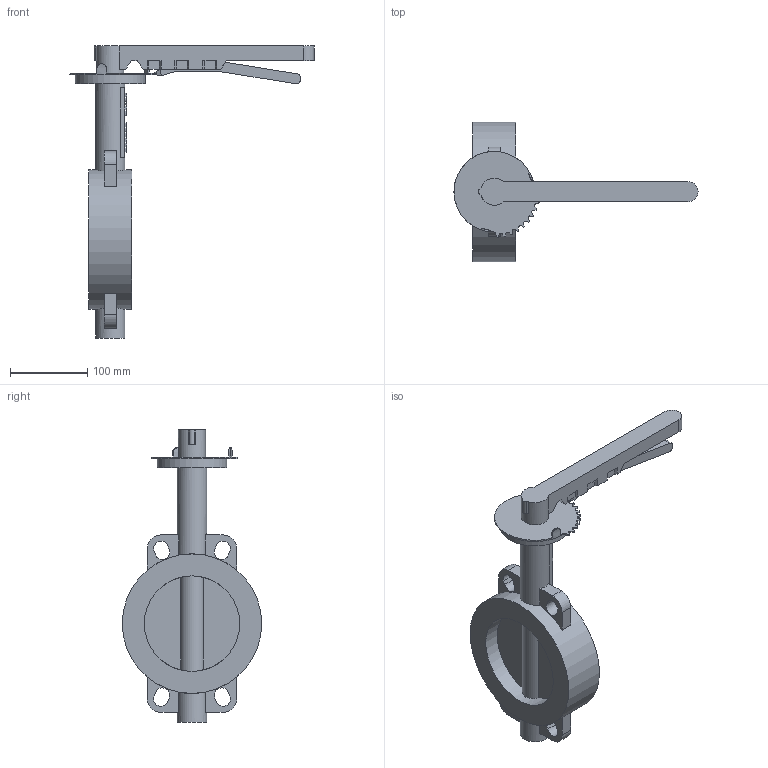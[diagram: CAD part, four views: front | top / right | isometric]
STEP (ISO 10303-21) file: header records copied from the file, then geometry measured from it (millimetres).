
FILE_DESCRIPTION(('STEP AP203'), '1');
FILE_NAME('Çàòâîð 017W.Z(÷óãóí) DN125 PN10_16 ðóêîÿòêà', '', ('UNSPECIFIED'), ('UNSPECIFIED'), 'ASCON STEP Converter 1.6', 'ASCON Math Kernel', '');
FILE_SCHEMA(('CONFIG_CONTROL_DESIGN'));
Length unit declared in the file: millimetre
Bounding box: 315 x 180 x 377 mm (x, y, z)
Volume: 222768.4 mm3; surface area: 203278.6 mm2
Topology: 1 solids, 2 shells, 758 faces, 2244 edges, 1449 vertices
Faces by surface type: cylinder 495, plane 263
Full cylindrical faces by diameter (mm): 10 x4, 18.9 x1, 35 x1, 38 x2, 55 x1, 90 x1, 123.3 x2, 180 x1
Entity records: 32502 total; most frequent: CARTESIAN_POINT 5206, DIRECTION 4772, ORIENTED_EDGE 4401, EDGE_CURVE 2232, AXIS2_PLACEMENT_3D 1809, VERTEX_POINT 1449, LINE 1154, VECTOR 1154
